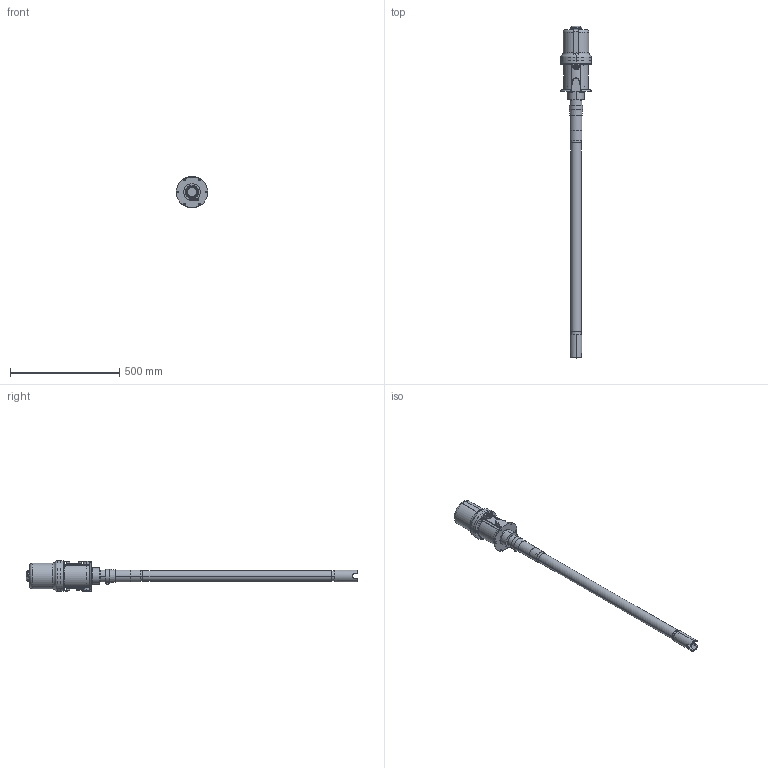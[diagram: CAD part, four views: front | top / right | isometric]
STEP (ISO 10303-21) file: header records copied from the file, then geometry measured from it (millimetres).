
FILE_DESCRIPTION((''),'2;1');
FILE_NAME('222087-EN-ZAG_PRT','2024-03-22T09:56:21',('qtmwp1'),(''),'CREO PARAMETRIC BY PTC INC, 2023424','CREO PARAMETRIC BY PTC INC, 2023424','');
FILE_SCHEMA(('CONFIG_CONTROL_DESIGN'));
Length unit declared in the file: inch
Products named in the file (1): 222087-EN-ZAG_PRT
Bounding box: 143.82 x 1520.18 x 141.6 mm (x, y, z)
Surface area: 390912.6 mm2 (no closed solid volume)
Topology: 0 solids, 65 shells, 236 faces, 893 edges, 688 vertices
Faces by surface type: cylinder 84, plane 59, cone 51, torus 22, bspline 20
Entity records: 12066 total; most frequent: CARTESIAN_POINT 5321, DIRECTION 1268, ORIENTED_EDGE 1243, EDGE_CURVE 893, VERTEX_POINT 688, AXIS2_PLACEMENT_3D 498, B_SPLINE_CURVE_WITH_KNOTS 339, CIRCLE 282
